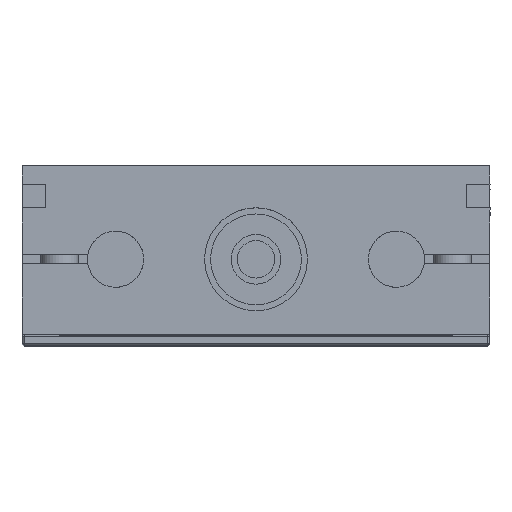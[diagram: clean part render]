
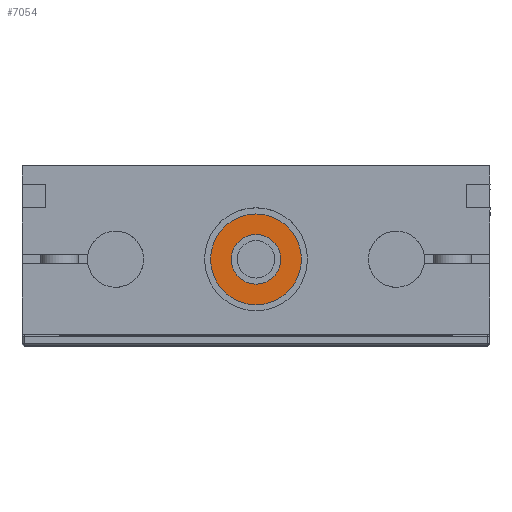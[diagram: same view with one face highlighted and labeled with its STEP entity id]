
A CAD part, top view. The second image highlights one B-rep face of the part: STEP entity #7054.
In plain terms, the highlighted planar face has unit normal (0, 0, 1) as drawn and (1, 0, 0) by its records, which use the part's own axes.
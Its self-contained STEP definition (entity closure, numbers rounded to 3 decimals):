
#1457 = DIRECTION ( 'NONE',  ( 0., 0., 1. ) ) ;
#1510 = EDGE_CURVE ( 'NONE', #12293, #12104, #8300, .T. ) ;
#1624 = DIRECTION ( 'NONE',  ( 0., 0., 1. ) ) ;
#1949 = AXIS2_PLACEMENT_3D ( 'NONE', #8595, #12268, #1457 ) ;
#5192 = PLANE ( 'NONE',  #9191 ) ;
#6383 = CARTESIAN_POINT ( 'NONE',  ( 314.5, 20., -9.7 ) ) ;
#6393 = CARTESIAN_POINT ( 'NONE',  ( 314.5, 20., 0. ) ) ;
#7054 = ADVANCED_FACE ( 'NONE', ( #46443, #28283 ), #5192, .F. ) ;
#7105 = CARTESIAN_POINT ( 'NONE',  ( 314.5, 20., 5.3 ) ) ;
#7713 = ORIENTED_EDGE ( 'NONE', *, *, #1510, .F. ) ;
#8300 = CIRCLE ( 'NONE', #35791, 9.7 ) ;
#8595 = CARTESIAN_POINT ( 'NONE',  ( 314.5, 20., 0. ) ) ;
#8871 = CARTESIAN_POINT ( 'NONE',  ( 314.5, 25.3, 0. ) ) ;
#9191 = AXIS2_PLACEMENT_3D ( 'NONE', #8871, #20168, #16480 ) ;
#11157 = EDGE_LOOP ( 'NONE', ( #26089, #7713 ) ) ;
#11637 = CIRCLE ( 'NONE', #25001, 5.3 ) ;
#12104 = VERTEX_POINT ( 'NONE', #15724 ) ;
#12268 = DIRECTION ( 'NONE',  ( -1., 0., 0. ) ) ;
#12293 = VERTEX_POINT ( 'NONE', #6383 ) ;
#14687 = CIRCLE ( 'NONE', #24108, 9.7 ) ;
#15724 = CARTESIAN_POINT ( 'NONE',  ( 314.5, 20., 9.7 ) ) ;
#16348 = CARTESIAN_POINT ( 'NONE',  ( 314.5, 20., 0. ) ) ;
#16480 = DIRECTION ( 'NONE',  ( 0., 0., 1. ) ) ;
#18785 = ORIENTED_EDGE ( 'NONE', *, *, #20147, .T. ) ;
#19359 = ORIENTED_EDGE ( 'NONE', *, *, #25573, .T. ) ;
#19781 = DIRECTION ( 'NONE',  ( 0., 0., 1. ) ) ;
#20147 = EDGE_CURVE ( 'NONE', #34825, #25822, #11637, .T. ) ;
#20168 = DIRECTION ( 'NONE',  ( -1., 0., 0. ) ) ;
#24108 = AXIS2_PLACEMENT_3D ( 'NONE', #16348, #30619, #19781 ) ;
#24711 = DIRECTION ( 'NONE',  ( -1., 0., 0. ) ) ;
#25001 = AXIS2_PLACEMENT_3D ( 'NONE', #43367, #24711, #1624 ) ;
#25573 = EDGE_CURVE ( 'NONE', #25822, #34825, #36487, .T. ) ;
#25822 = VERTEX_POINT ( 'NONE', #7105 ) ;
#26089 = ORIENTED_EDGE ( 'NONE', *, *, #31381, .F. ) ;
#28283 = FACE_BOUND ( 'NONE', #43827, .T. ) ;
#30619 = DIRECTION ( 'NONE',  ( -1., 0., 0. ) ) ;
#31381 = EDGE_CURVE ( 'NONE', #12104, #12293, #14687, .T. ) ;
#34427 = CARTESIAN_POINT ( 'NONE',  ( 314.5, 20., -5.3 ) ) ;
#34825 = VERTEX_POINT ( 'NONE', #34427 ) ;
#35791 = AXIS2_PLACEMENT_3D ( 'NONE', #6393, #43722, #44443 ) ;
#36487 = CIRCLE ( 'NONE', #1949, 5.3 ) ;
#43367 = CARTESIAN_POINT ( 'NONE',  ( 314.5, 20., 0. ) ) ;
#43722 = DIRECTION ( 'NONE',  ( -1., 0., 0. ) ) ;
#43827 = EDGE_LOOP ( 'NONE', ( #19359, #18785 ) ) ;
#44443 = DIRECTION ( 'NONE',  ( 0., 0., 1. ) ) ;
#46443 = FACE_OUTER_BOUND ( 'NONE', #11157, .T. ) ;
